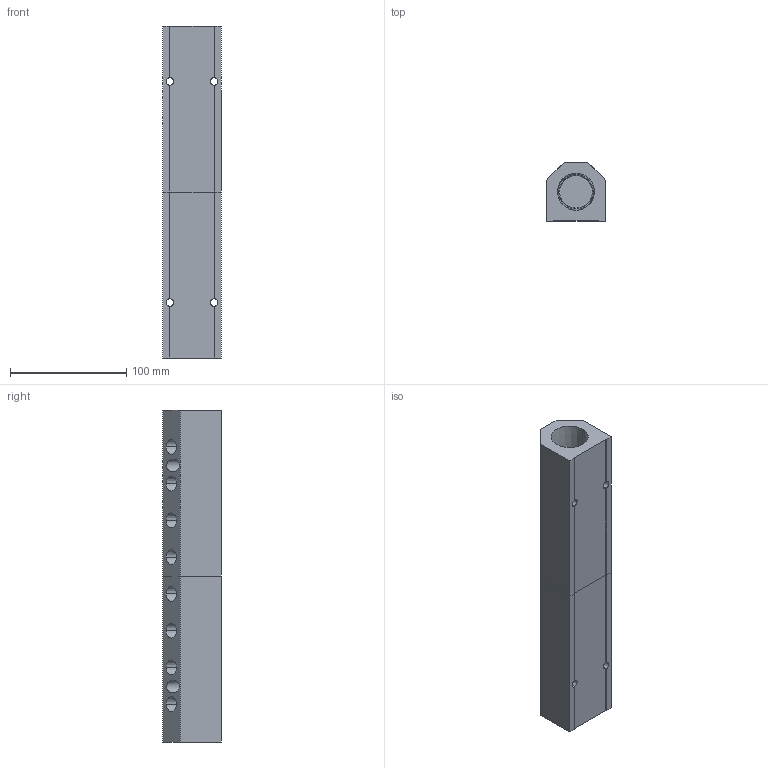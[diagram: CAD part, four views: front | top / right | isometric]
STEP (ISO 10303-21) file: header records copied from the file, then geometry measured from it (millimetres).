
FILE_DESCRIPTION (( 'STEP AP214' ), '1' );
FILE_NAME ('ALM8BD-N4N16-286RB.STEP', '2023-11-02T06:16:09', ( '' ), ( '' ), 'SwSTEP 2.0', 'SolidWorks 2020', '' );
FILE_SCHEMA (( 'AUTOMOTIVE_DESIGN' ));
Length unit declared in the file: millimetre
Products named in the file (1): ALM8BD-N4N16-286RB
Bounding box: 50.8 x 50.8 x 286 mm (x, y, z)
Volume: 453064.2 mm3; surface area: 94463.1 mm2
Topology: 2 solids, 2 shells, 378 faces, 980 edges, 648 vertices
Faces by surface type: plane 226, bspline 88, cone 40, cylinder 24
Entity records: 21445 total; most frequent: CARTESIAN_POINT 9247, ORIENTED_EDGE 1960, DIRECTION 1418, EDGE_CURVE 980, LINE 676, VECTOR 676, VERTEX_POINT 648, EDGE_LOOP 460
